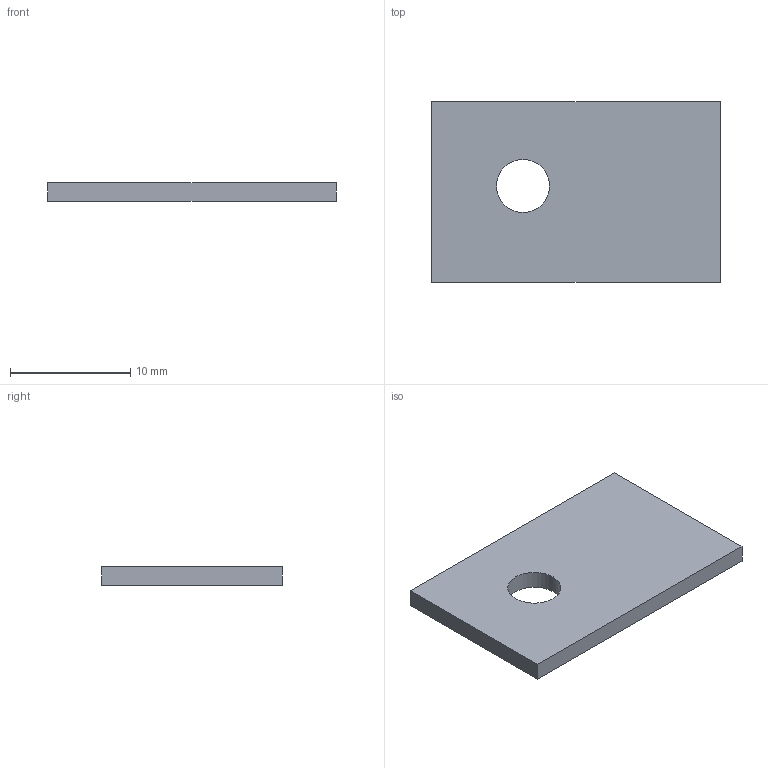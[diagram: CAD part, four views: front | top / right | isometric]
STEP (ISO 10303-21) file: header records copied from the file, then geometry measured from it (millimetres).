
FILE_DESCRIPTION(('Open CASCADE Model'),'2;1');
FILE_NAME('Open CASCADE Shape Model','2026-11-09T21:30:06',('Author'),( 'Open CASCADE'),'Open CASCADE STEP processor 8.0','Open CASCADE 8.0' ,'Unknown');
FILE_SCHEMA(('AUTOMOTIVE_DESIGN { 1 0 10303 214 1 1 1 1 }'));
Length unit declared in the file: millimetre
Products named in the file (1): Open CASCADE STEP translator 8.0 8
Bounding box: 24 x 15 x 1.5 mm (x, y, z)
Volume: 517.2 mm3; surface area: 827.3 mm2
Topology: 1 solids, 1 shells, 7 faces, 15 edges, 10 vertices
Faces by surface type: plane 6, cylinder 1
Full cylindrical faces by diameter (mm): 4.4 x1
Entity records: 400 total; most frequent: CARTESIAN_POINT 63, DIRECTION 63, LINE 41, VECTOR 41, ORIENTED_EDGE 30, PCURVE 30, DEFINITIONAL_REPRESENTATION 30, EDGE_CURVE 15
